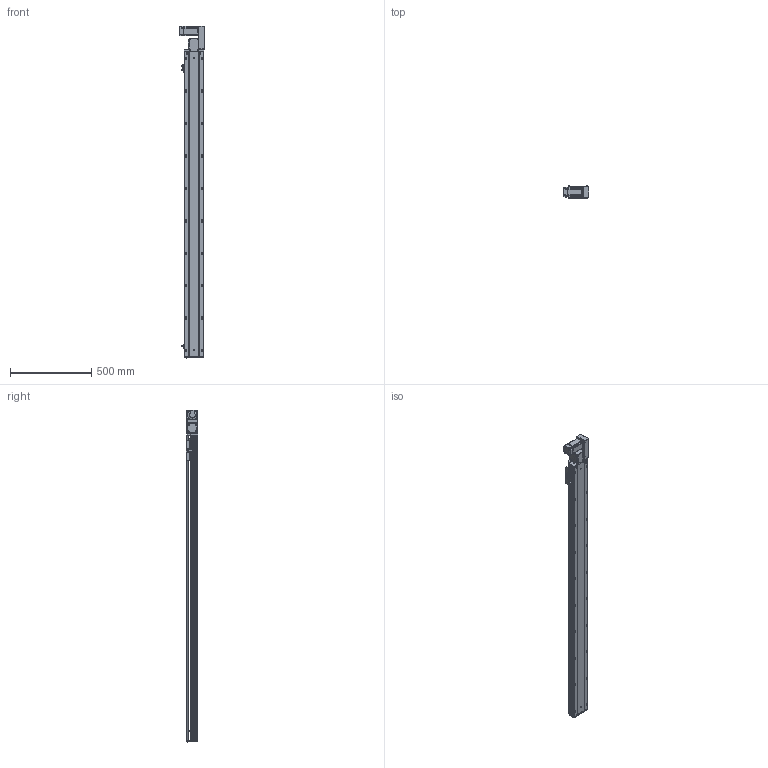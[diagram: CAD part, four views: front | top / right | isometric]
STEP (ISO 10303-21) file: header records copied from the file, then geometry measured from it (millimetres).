
FILE_DESCRIPTION (( 'STEP AP203' ), '1' );
FILE_NAME ('RY120-T-300-RK.SLDASM_1650.step', '2021-03-01T03:54:44', ( '盈信电脑' ), ( '东莞市道滘镇水果街19号' ), 'SwSTEP 2.0', 'SolidWorks 2012', '' );
FILE_SCHEMA (( 'CONFIG_CONTROL_DESIGN' ));
Length unit declared in the file: millimetre
Products named in the file (17): RY120-T主同步轮轴承压盖; RY120-T萇儂欶; RY120-T-300-RK.SLDASM_1650; RY120-T蹟翐M4; 15; RY120-T萇儂假蚾啣; RY120-T翋肮祭謫裔啣; RY120-T翋肮祭盓傅釱; RY120-T肮祭湍揤踡輸1; RY120-T肮祭湍揤踡輸2; 滅袉蝶18-10; RY120肮祭湍臏賑輸; RY120綴裔啣; RY120外置感应片(140共用）; 覜茼ん672; RY120-T-300-RK倰第奻裔啣_1650; RY120-T-300-RK倰第菁釱_1650
Assembly tree (22 placements, depth 2):
  RY120-T-300-RK.SLDASM_1650
    RY120-T-300-RK倰第菁釱_1650
    RY120-T-300-RK倰第奻裔啣_1650
    RY120肮祭湍臏賑輸
    RY120綴裔啣
    覜茼ん672  x3
    RY120外置感应片(140共用）
    RY120-T肮祭湍揤踡輸1
    RY120-T肮祭湍揤踡輸2
    RY120-T翋肮祭盓傅釱
    滅袉蝶18-10  x2
    RY120-T翋肮祭謫裔啣
    15
    RY120-T萇儂假蚾啣
    RY120-T蹟翐M4  x4
    RY120-T萇儂欶
    RY120-T主同步轮轴承压盖
Bounding box: 155.5 x 73 x 2047.5 mm (x, y, z)
Volume: 5039651.5 mm3; surface area: 1914635.3 mm2
Topology: 23 solids, 23 shells, 3030 faces, 8288 edges, 5292 vertices
Faces by surface type: plane 1446, cylinder 1196, cone 299, bspline 89
Entity records: 97295 total; most frequent: CARTESIAN_POINT 25294, ORIENTED_EDGE 14912, DIRECTION 14062, EDGE_CURVE 7456, VERTEX_POINT 4879, AXIS2_PLACEMENT_3D 4759, VECTOR 4544, LINE 4544
